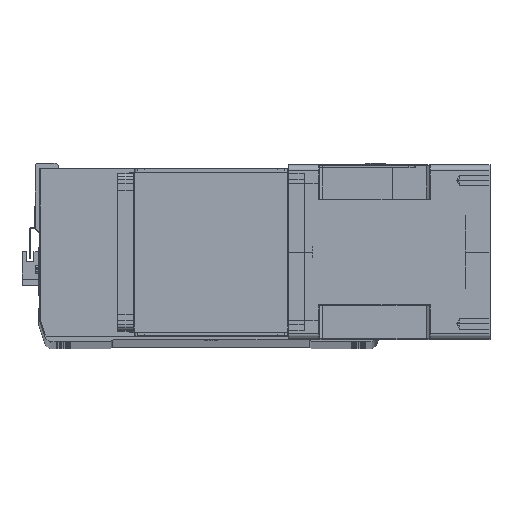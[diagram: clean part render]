
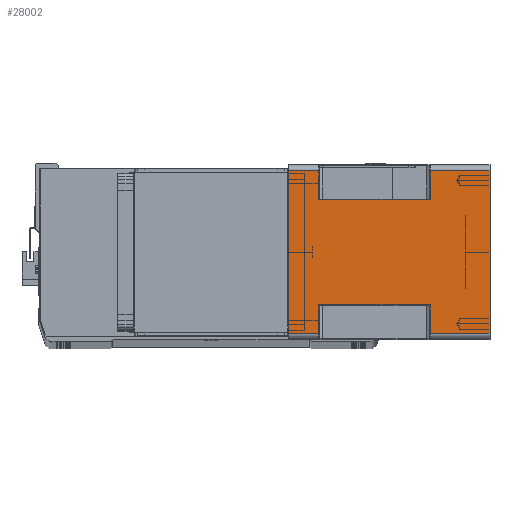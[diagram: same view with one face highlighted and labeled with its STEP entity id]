
A CAD part, top view. The second image highlights one B-rep face of the part: STEP entity #28002.
In plain terms, the highlighted planar face has unit normal (0, 0, 1) as drawn and (1, 0, 0) by its records, which use the part's own axes.
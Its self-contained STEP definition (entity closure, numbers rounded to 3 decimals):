
#675 = VERTEX_POINT ( 'NONE', #5770 ) ;
#1358 = CARTESIAN_POINT ( 'NONE',  ( 71., 66., -24.5 ) ) ;
#2504 = EDGE_CURVE ( 'NONE', #32421, #29971, #21356, .T. ) ;
#2531 = CARTESIAN_POINT ( 'NONE',  ( 71., -66., -164. ) ) ;
#2914 = CARTESIAN_POINT ( 'NONE',  ( 71., -66., -164. ) ) ;
#3023 = LINE ( 'NONE', #5883, #11085 ) ;
#3374 = DIRECTION ( 'NONE',  ( 0., 1., 0. ) ) ;
#3408 = DIRECTION ( 'NONE',  ( 0., 1., 0. ) ) ;
#3819 = VERTEX_POINT ( 'NONE', #2531 ) ;
#4161 = CARTESIAN_POINT ( 'NONE',  ( 71., -66., -24.5 ) ) ;
#5436 = LINE ( 'NONE', #19230, #19114 ) ;
#5537 = CARTESIAN_POINT ( 'NONE',  ( 71., 66., 0. ) ) ;
#5770 = CARTESIAN_POINT ( 'NONE',  ( 71., 66., -164. ) ) ;
#5879 = ORIENTED_EDGE ( 'NONE', *, *, #2504, .T. ) ;
#5883 = CARTESIAN_POINT ( 'NONE',  ( 71., 43., -164. ) ) ;
#6012 = LINE ( 'NONE', #2914, #26143 ) ;
#8075 = VECTOR ( 'NONE', #24042, 1000. ) ;
#8380 = DIRECTION ( 'NONE',  ( 0., 0., 1. ) ) ;
#8524 = LINE ( 'NONE', #12921, #8075 ) ;
#8648 = DIRECTION ( 'NONE',  ( 0., 0., 1. ) ) ;
#8681 = ORIENTED_EDGE ( 'NONE', *, *, #29445, .T. ) ;
#8743 = EDGE_LOOP ( 'NONE', ( #25646, #16673, #32854, #26084, #8681, #27031, #12079, #22574, #5879, #35422, #19334, #14569 ) ) ;
#9706 = VERTEX_POINT ( 'NONE', #13181 ) ;
#10536 = CARTESIAN_POINT ( 'NONE',  ( 71., -43., -24.5 ) ) ;
#10587 = VERTEX_POINT ( 'NONE', #10536 ) ;
#10738 = CARTESIAN_POINT ( 'NONE',  ( 71., 43., -115.5 ) ) ;
#10825 = CARTESIAN_POINT ( 'NONE',  ( 71., -66., 0. ) ) ;
#11054 = LINE ( 'NONE', #29230, #12791 ) ;
#11085 = VECTOR ( 'NONE', #25034, 1000. ) ;
#11269 = CARTESIAN_POINT ( 'NONE',  ( 71., -66., -24.5 ) ) ;
#11355 = LINE ( 'NONE', #11269, #18177 ) ;
#11494 = VERTEX_POINT ( 'NONE', #13694 ) ;
#11508 = LINE ( 'NONE', #25370, #17932 ) ;
#11740 = CARTESIAN_POINT ( 'NONE',  ( 71., -66., -115.5 ) ) ;
#11923 = CARTESIAN_POINT ( 'NONE',  ( 71., -66., -164. ) ) ;
#12079 = ORIENTED_EDGE ( 'NONE', *, *, #16121, .F. ) ;
#12132 = EDGE_CURVE ( 'NONE', #13151, #10587, #11508, .T. ) ;
#12169 = CARTESIAN_POINT ( 'NONE',  ( 71., -66., -115.5 ) ) ;
#12587 = LINE ( 'NONE', #12169, #33644 ) ;
#12791 = VECTOR ( 'NONE', #29704, 1000. ) ;
#12815 = VECTOR ( 'NONE', #19854, 1000. ) ;
#12921 = CARTESIAN_POINT ( 'NONE',  ( 71., -43., -24.5 ) ) ;
#13151 = VERTEX_POINT ( 'NONE', #26544 ) ;
#13181 = CARTESIAN_POINT ( 'NONE',  ( 71., 66., -115.5 ) ) ;
#13694 = CARTESIAN_POINT ( 'NONE',  ( 71., 43., -24.5 ) ) ;
#13771 = EDGE_CURVE ( 'NONE', #11494, #32421, #11355, .T. ) ;
#14280 = EDGE_CURVE ( 'NONE', #9706, #25496, #30616, .T. ) ;
#14569 = ORIENTED_EDGE ( 'NONE', *, *, #16459, .T. ) ;
#14722 = DIRECTION ( 'NONE',  ( 1., 0., 0. ) ) ;
#14909 = DIRECTION ( 'NONE',  ( 0., -1., 0. ) ) ;
#16121 = EDGE_CURVE ( 'NONE', #11494, #25496, #3023, .T. ) ;
#16426 = EDGE_CURVE ( 'NONE', #29676, #27236, #11054, .T. ) ;
#16459 = EDGE_CURVE ( 'NONE', #29676, #10587, #8524, .T. ) ;
#16673 = ORIENTED_EDGE ( 'NONE', *, *, #22949, .T. ) ;
#16910 = LINE ( 'NONE', #11923, #31944 ) ;
#17932 = VECTOR ( 'NONE', #8648, 1000. ) ;
#18177 = VECTOR ( 'NONE', #33151, 1000. ) ;
#18701 = VERTEX_POINT ( 'NONE', #11740 ) ;
#19114 = VECTOR ( 'NONE', #8380, 1000. ) ;
#19230 = CARTESIAN_POINT ( 'NONE',  ( 71., 66., -164. ) ) ;
#19334 = ORIENTED_EDGE ( 'NONE', *, *, #16426, .F. ) ;
#19831 = CARTESIAN_POINT ( 'NONE',  ( 71., -66., 0. ) ) ;
#19854 = DIRECTION ( 'NONE',  ( 0., 0., 1. ) ) ;
#19882 = CARTESIAN_POINT ( 'NONE',  ( 71., -66., -164. ) ) ;
#20268 = VECTOR ( 'NONE', #22024, 1000. ) ;
#21249 = FACE_OUTER_BOUND ( 'NONE', #8743, .T. ) ;
#21356 = LINE ( 'NONE', #35536, #12815 ) ;
#22024 = DIRECTION ( 'NONE',  ( 0., -1., 0. ) ) ;
#22574 = ORIENTED_EDGE ( 'NONE', *, *, #13771, .T. ) ;
#22949 = EDGE_CURVE ( 'NONE', #13151, #18701, #12587, .T. ) ;
#23485 = AXIS2_PLACEMENT_3D ( 'NONE', #19882, #14722, #3408 ) ;
#24042 = DIRECTION ( 'NONE',  ( 0., 1., 0. ) ) ;
#24058 = CARTESIAN_POINT ( 'NONE',  ( 71., 43., -115.5 ) ) ;
#24997 = EDGE_CURVE ( 'NONE', #3819, #675, #16910, .T. ) ;
#25006 = DIRECTION ( 'NONE',  ( 0., 1., 0. ) ) ;
#25034 = DIRECTION ( 'NONE',  ( 0., 0., -1. ) ) ;
#25370 = CARTESIAN_POINT ( 'NONE',  ( 71., -43., -164. ) ) ;
#25496 = VERTEX_POINT ( 'NONE', #24058 ) ;
#25629 = PLANE ( 'NONE',  #23485 ) ;
#25646 = ORIENTED_EDGE ( 'NONE', *, *, #12132, .F. ) ;
#26084 = ORIENTED_EDGE ( 'NONE', *, *, #24997, .T. ) ;
#26143 = VECTOR ( 'NONE', #29951, 1000. ) ;
#26544 = CARTESIAN_POINT ( 'NONE',  ( 71., -43., -115.5 ) ) ;
#26710 = EDGE_CURVE ( 'NONE', #3819, #18701, #6012, .T. ) ;
#26849 = EDGE_CURVE ( 'NONE', #27236, #29971, #30445, .T. ) ;
#27031 = ORIENTED_EDGE ( 'NONE', *, *, #14280, .T. ) ;
#27236 = VERTEX_POINT ( 'NONE', #10825 ) ;
#28002 = ADVANCED_FACE ( 'NONE', ( #21249 ), #25629, .T. ) ;
#29132 = VECTOR ( 'NONE', #25006, 1000. ) ;
#29230 = CARTESIAN_POINT ( 'NONE',  ( 71., -66., -164. ) ) ;
#29445 = EDGE_CURVE ( 'NONE', #675, #9706, #5436, .T. ) ;
#29676 = VERTEX_POINT ( 'NONE', #4161 ) ;
#29704 = DIRECTION ( 'NONE',  ( 0., 0., 1. ) ) ;
#29951 = DIRECTION ( 'NONE',  ( 0., 0., 1. ) ) ;
#29971 = VERTEX_POINT ( 'NONE', #5537 ) ;
#30445 = LINE ( 'NONE', #19831, #29132 ) ;
#30616 = LINE ( 'NONE', #10738, #20268 ) ;
#31944 = VECTOR ( 'NONE', #3374, 1000. ) ;
#32421 = VERTEX_POINT ( 'NONE', #1358 ) ;
#32854 = ORIENTED_EDGE ( 'NONE', *, *, #26710, .F. ) ;
#33151 = DIRECTION ( 'NONE',  ( 0., 1., 0. ) ) ;
#33644 = VECTOR ( 'NONE', #14909, 1000. ) ;
#35422 = ORIENTED_EDGE ( 'NONE', *, *, #26849, .F. ) ;
#35536 = CARTESIAN_POINT ( 'NONE',  ( 71., 66., -164. ) ) ;
